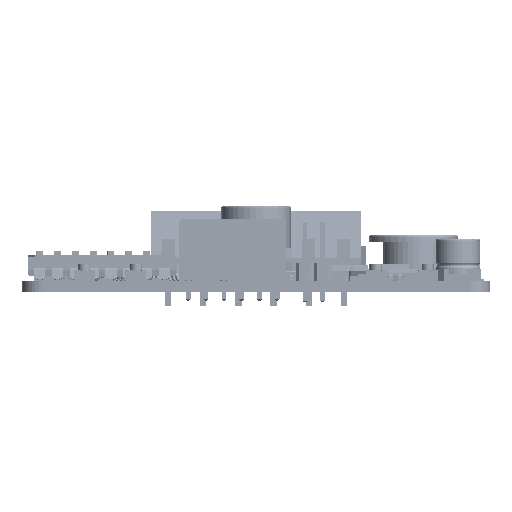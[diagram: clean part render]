
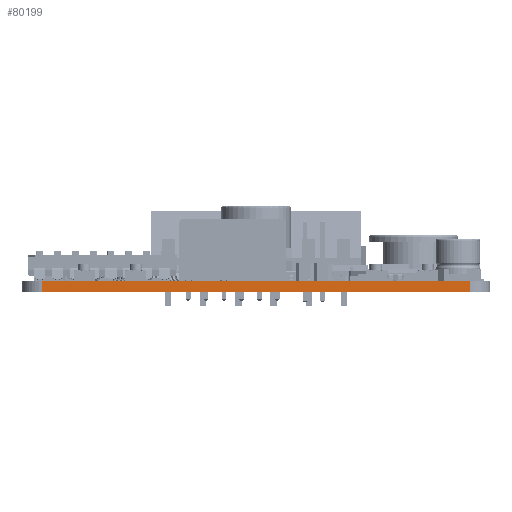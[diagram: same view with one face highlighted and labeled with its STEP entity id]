
A CAD part, front view. The second image highlights one B-rep face of the part: STEP entity #80199.
In plain terms, the highlighted planar face has unit normal (0, -1, 0).
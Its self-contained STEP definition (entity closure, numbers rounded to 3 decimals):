
#3964=PLANE('',#85932);
#7295=FACE_OUTER_BOUND('',#12500,.T.);
#12500=EDGE_LOOP('',(#60175,#60176,#60177,#60178));
#18915=LINE('',#114335,#27527);
#19415=LINE('',#116396,#28027);
#20313=LINE('',#119124,#28925);
#20314=LINE('',#119126,#28926);
#27527=VECTOR('',#91464,10.);
#28027=VECTOR('',#93268,10.);
#28925=VECTOR('',#96508,10.);
#28926=VECTOR('',#96511,10.);
#36169=VERTEX_POINT('',#114332);
#36170=VERTEX_POINT('',#114334);
#37078=VERTEX_POINT('',#116393);
#37079=VERTEX_POINT('',#116395);
#43657=EDGE_CURVE('',#36169,#36170,#18915,.T.);
#44701=EDGE_CURVE('',#37079,#37078,#19415,.T.);
#46066=EDGE_CURVE('',#37078,#36170,#20313,.T.);
#46067=EDGE_CURVE('',#37079,#36169,#20314,.T.);
#60175=ORIENTED_EDGE('',*,*,#44701,.T.);
#60176=ORIENTED_EDGE('',*,*,#46066,.T.);
#60177=ORIENTED_EDGE('',*,*,#43657,.F.);
#60178=ORIENTED_EDGE('',*,*,#46067,.F.);
#80199=ADVANCED_FACE('',(#7295),#3964,.T.);
#85932=AXIS2_PLACEMENT_3D('',#119125,#96509,#96510);
#91464=DIRECTION('',(1.,0.,0.));
#93268=DIRECTION('',(1.,0.,0.));
#96508=DIRECTION('',(0.,0.,1.));
#96509=DIRECTION('center_axis',(0.,-1.,0.));
#96510=DIRECTION('ref_axis',(1.,0.,0.));
#96511=DIRECTION('',(0.,0.,1.));
#114332=CARTESIAN_POINT('',(2.921,5.08,1.57));
#114334=CARTESIAN_POINT('',(63.881,5.08,1.57));
#114335=CARTESIAN_POINT('',(2.921,5.08,1.57));
#116393=CARTESIAN_POINT('',(63.881,5.08,0.));
#116395=CARTESIAN_POINT('',(2.921,5.08,0.));
#116396=CARTESIAN_POINT('',(2.921,5.08,0.));
#119124=CARTESIAN_POINT('',(63.881,5.08,0.));
#119125=CARTESIAN_POINT('Origin',(2.921,5.08,0.));
#119126=CARTESIAN_POINT('',(2.921,5.08,0.));
